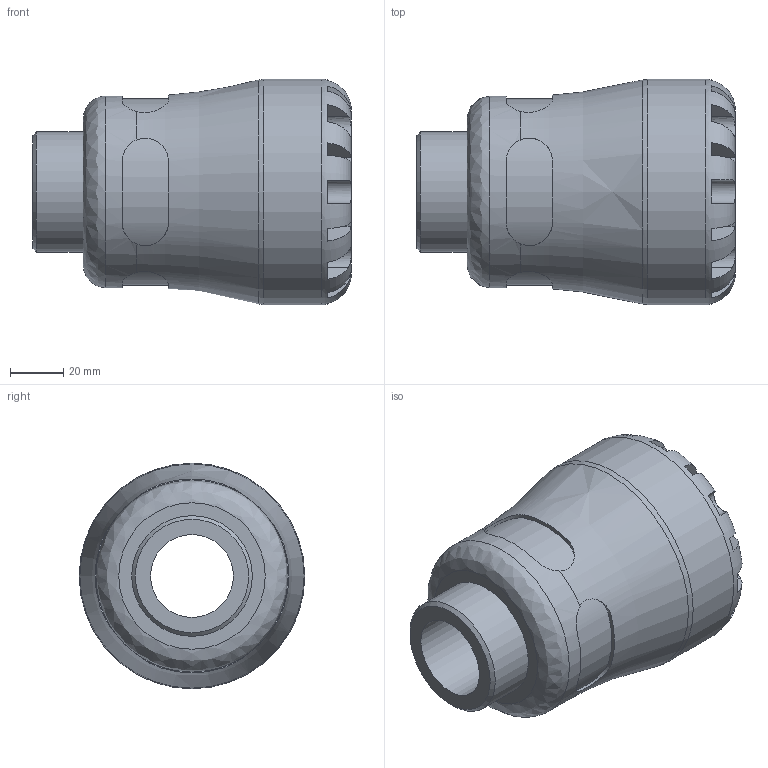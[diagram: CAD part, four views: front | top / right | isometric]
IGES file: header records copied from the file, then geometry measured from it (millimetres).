
Global section: file name: 107200050015_197200050015.ipt; native system: Autodesk Inventor 2015; preprocessor: unknown; author: KIM; date: 20170122.104958; units: millimetre
Bounding box: 120 x 85 x 85 mm (x, y, z)
Volume: 313424.3 mm3; surface area: 53055.4 mm2
Topology: 1 solids, 1 shells, 99 faces, 264 edges, 169 vertices
Faces by surface type: plane 60, revolution 23, cylinder 15, cone 1
Full cylindrical faces by diameter (mm): 45.485 x1, 72.25 x1, 85 x1
